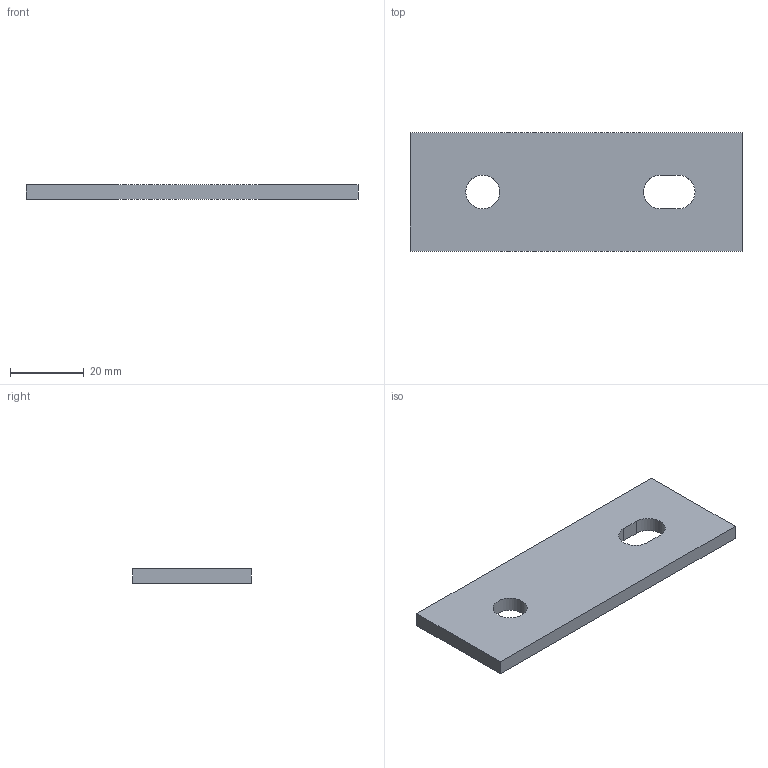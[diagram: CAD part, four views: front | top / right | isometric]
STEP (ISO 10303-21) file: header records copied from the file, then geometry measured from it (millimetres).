
FILE_DESCRIPTION(('FreeCAD Model'),'2;1');
FILE_NAME('Open CASCADE Shape Model','2026-09-11T23:31:28',('FreeCAD'),( 'FreeCAD'),'Open CASCADE STEP processor 7.8','FreeCAD','Unknown');
FILE_SCHEMA(('AUTOMOTIVE_DESIGN { 1 0 10303 214 1 1 1 1 }'));
Length unit declared in the file: millimetre
Products named in the file (1): Open CASCADE STEP translator 7.8 8
Bounding box: 90 x 32 x 4 mm (x, y, z)
Volume: 10811.6 mm3; surface area: 6651.4 mm2
Topology: 1 solids, 1 shells, 11 faces, 27 edges, 18 vertices
Faces by surface type: plane 8, cylinder 3
Full cylindrical faces by diameter (mm): 9.2 x1
Entity records: 345 total; most frequent: CARTESIAN_POINT 57, DIRECTION 57, ORIENTED_EDGE 54, EDGE_CURVE 27, LINE 21, VECTOR 21, AXIS2_PLACEMENT_3D 18, VERTEX_POINT 18
